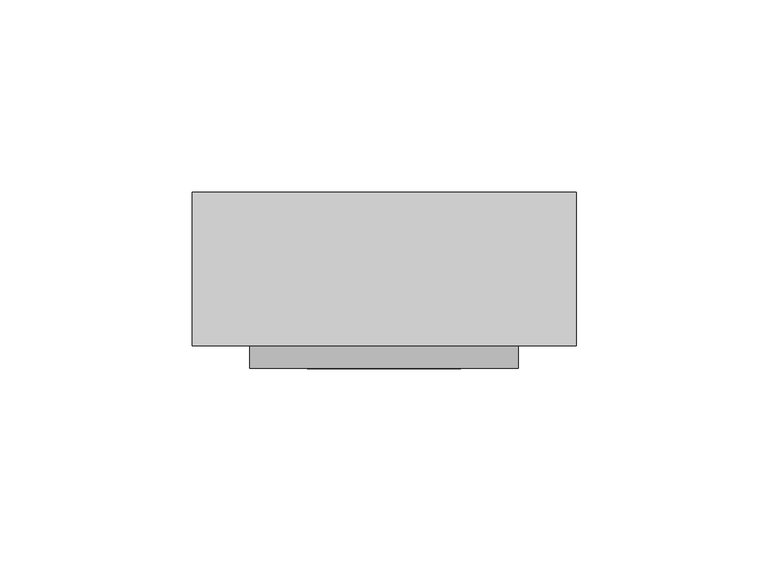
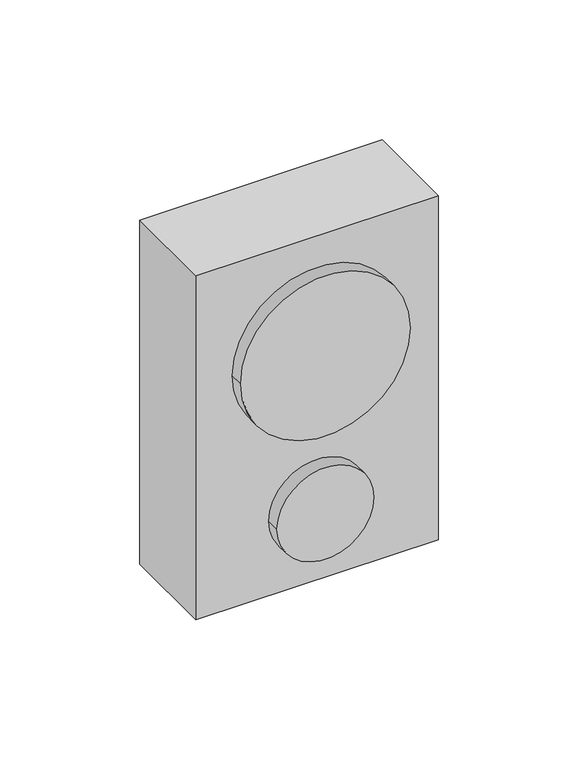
"""IFC4 building model written with IfcOpenShell, lengths in millimetres: proxy geometry, BIMHealth-Code_Blue-Non_Wall_Mounted-LOD2A-v1 : BIMHealth-Code_Blue-Non_Wall_Mounted-LOD2A-v1."""

from ifc_helpers import new_model, si_unit, point, frame, frame_2d, origin, place, context, project, spatial, polyline, circle_curve, trimmed, segment, composite_curve, outline, extrude, source, transform, mapped, element, save


def electrical_fixtures_e6a07013(model_context):
    return source(origin(), model_context, "Body", "SweptSolid", [
        extrude(outline(composite_curve([segment(trimmed(circle_curve(frame_2d((1232.5, 0.0)), 20.0), [point((1232.5, -20.0))], [point((1232.5, 20.0))], False, "CARTESIAN"), True, "CONTINUOUS"), segment(trimmed(circle_curve(frame_2d((1232.5, 0.0)), 20.0), [point((1232.5, 20.0))], [point((1232.5, -20.0))], False, "CARTESIAN"), True, "CONTINUOUS")], self_intersect=False)), frame((0.0, -45.9487595, 0.0), z_axis=(0.0, 1.0, 0.0), x_axis=(0.0, 0.0, 1.0)), (0.0, 0.0, 1.0), 5.9487595),
        extrude(outline(composite_curve([segment(trimmed(circle_curve(frame_2d((1301.25, 0.0)), 35.0), [point((1301.25, -35.0))], [point((1301.25, 35.0))], False, "CARTESIAN"), True, "CONTINUOUS"), segment(trimmed(circle_curve(frame_2d((1301.25, 0.0)), 35.0), [point((1301.25, 35.0))], [point((1301.25, -35.0))], False, "CARTESIAN"), True, "CONTINUOUS")], self_intersect=False)), frame((0.0, -45.9487595, 0.0), z_axis=(0.0, 1.0, 0.0), x_axis=(0.0, 0.0, 1.0)), (0.0, 0.0, 1.0), 5.9487595),
        extrude(outline(polyline([(50.0, 0.0), (50.0, -40.0), (-50.0, -40.0), (-50.0, 0.0), (50.0, 0.0)])), frame((0.0, 0.0, 1200.0), z_axis=(0.0, 0.0, 1.0), x_axis=(1.0, 0.0, 0.0)), (0.0, 0.0, 1.0), 150.0),
    ])


if __name__ == "__main__":
    model = new_model("IFC4")
    model_context = context("Model", 3, world=origin())
    ifc_project = project(units=[si_unit("LENGTHUNIT", "METRE", prefix="MILLI")], contexts=[model_context])
    site = spatial("IfcSite", under=ifc_project)
    building = spatial("IfcBuilding", under=site)
    placement = place(None, origin())
    electrical_fixtures_shape = electrical_fixtures_e6a07013(model_context)
    element("IfcBuildingElementProxy", 1, Name="BIMHealth-Code_Blue-Non_Wall_Mounted-LOD2A-v1 : BIMHealth-Code_Blue-Non_Wall_Mounted-LOD2A-v1", ObjectType="BIMHealth-Code_Blue-Non_Wall_Mounted-LOD2A-v1 : BIMHealth-Code_Blue-Non_Wall_Mounted-LOD2A-v1", at=placement, inside=building, context=model_context, shape_type="MappedRepresentation", body=[
        mapped(electrical_fixtures_shape, transform((0.0, 0.0, 0.0), x_axis=(1.0, 0.0, 0.0), y_axis=(0.0, 1.0, 0.0), z_axis=(0.0, 0.0, 1.0))),
    ])
    save(model, "model.ifc")
